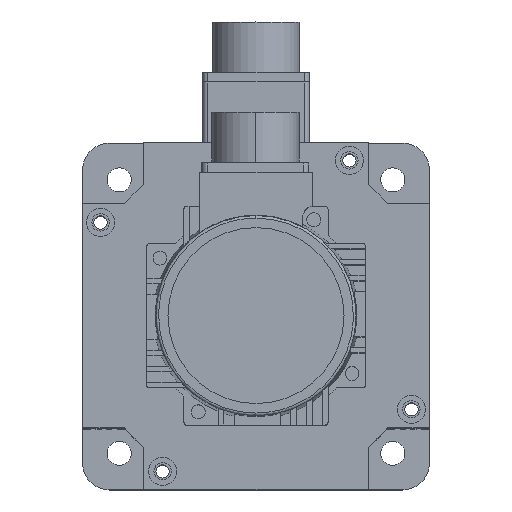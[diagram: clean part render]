
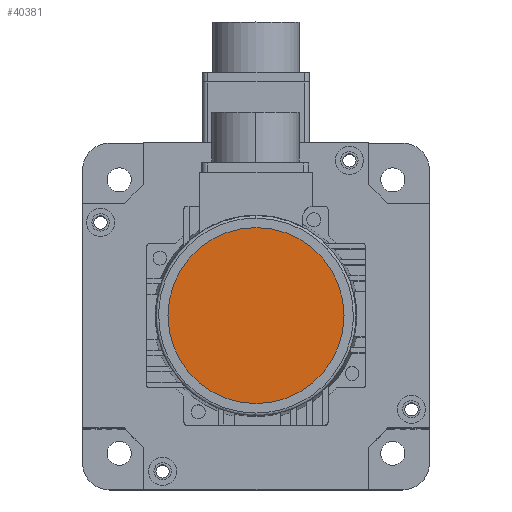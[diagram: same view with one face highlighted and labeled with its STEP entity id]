
A CAD part, top view. The second image highlights one B-rep face of the part: STEP entity #40381.
In plain terms, the highlighted planar face has unit normal (0, 0, 1).
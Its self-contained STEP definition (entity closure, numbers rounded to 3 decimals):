
#1358 = CIRCLE ( 'NONE', #13656, 33. ) ;
#1670 = VERTEX_POINT ( 'NONE', #4195 ) ;
#2629 = DIRECTION ( 'NONE',  ( 1., 0., 0. ) ) ;
#3072 = EDGE_LOOP ( 'NONE', ( #33871, #13146 ) ) ;
#3923 = EDGE_CURVE ( 'NONE', #17499, #1670, #1358, .T. ) ;
#4195 = CARTESIAN_POINT ( 'NONE',  ( -27.288, -2.493, 137.25 ) ) ;
#5609 = DIRECTION ( 'NONE',  ( 0., 0., 1. ) ) ;
#11797 = CIRCLE ( 'NONE', #33701, 33. ) ;
#12346 = CARTESIAN_POINT ( 'NONE',  ( -93.288, -2.493, 137.25 ) ) ;
#12690 = DIRECTION ( 'NONE',  ( 0., 0., 1. ) ) ;
#12988 = CARTESIAN_POINT ( 'NONE',  ( -60.288, -2.493, 137.25 ) ) ;
#13146 = ORIENTED_EDGE ( 'NONE', *, *, #3923, .T. ) ;
#13656 = AXIS2_PLACEMENT_3D ( 'NONE', #12988, #12690, #16736 ) ;
#15177 = PLANE ( 'NONE',  #42612 ) ;
#16736 = DIRECTION ( 'NONE',  ( 1., 0., 0. ) ) ;
#17499 = VERTEX_POINT ( 'NONE', #12346 ) ;
#22838 = CARTESIAN_POINT ( 'NONE',  ( -60.288, -2.493, 137.25 ) ) ;
#25261 = DIRECTION ( 'NONE',  ( 1., 0., 0. ) ) ;
#33701 = AXIS2_PLACEMENT_3D ( 'NONE', #22838, #5609, #2629 ) ;
#33871 = ORIENTED_EDGE ( 'NONE', *, *, #35236, .T. ) ;
#35236 = EDGE_CURVE ( 'NONE', #1670, #17499, #11797, .T. ) ;
#35325 = CARTESIAN_POINT ( 'NONE',  ( -60.288, -2.493, 137.25 ) ) ;
#38432 = FACE_OUTER_BOUND ( 'NONE', #3072, .T. ) ;
#38882 = DIRECTION ( 'NONE',  ( 0., 0., 1. ) ) ;
#40381 = ADVANCED_FACE ( 'NONE', ( #38432 ), #15177, .T. ) ;
#42612 = AXIS2_PLACEMENT_3D ( 'NONE', #35325, #38882, #25261 ) ;
